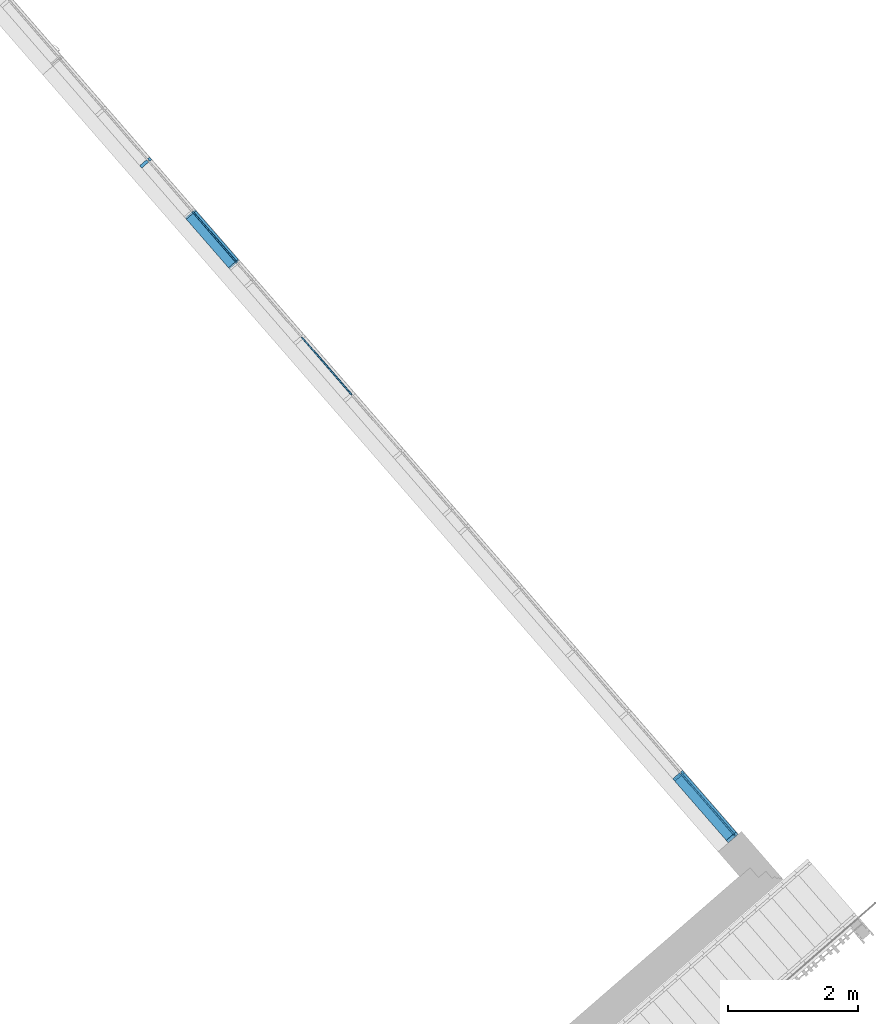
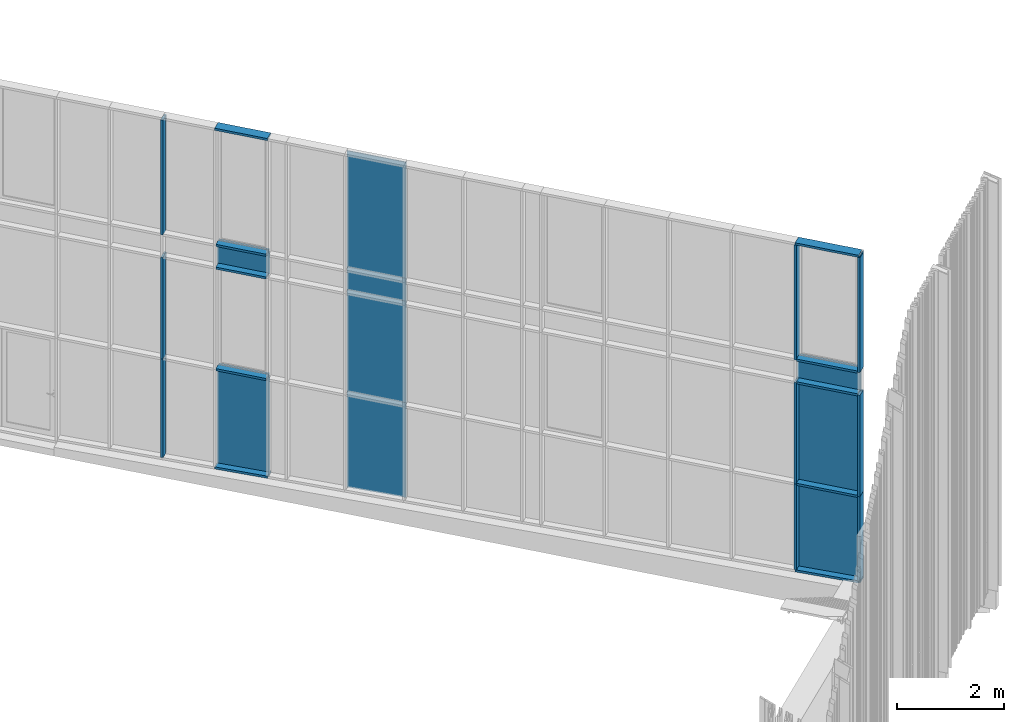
# One storey, part 52 of 390: 31 discrete accessories, 1 element without a shape of its own.
"""IFC2X3 building model written with IfcOpenShell, lengths in millimetres."""

from ifc_helpers import new_model, entity, si_unit, converted_unit, derived_unit, money_unit, direction, frame, origin_with_axes, place, context, subcontext, project, spatial, polyline, outline, extrude, clip, halfspace, material, material_list, type_object, element, aggregate, save


model = new_model("IFC2X3")

# Units and contexts
model_context = context("Model", 3, precision=1e-05, world=origin_with_axes(), true_north=direction((0.0, 1.0)))
body_context = subcontext(model_context, "Body", "Model", "MODEL_VIEW")
ifc_project = project(units=[si_unit("LENGTHUNIT", "METRE", prefix="MILLI"), si_unit("AREAUNIT", "SQUARE_METRE"), si_unit("VOLUMEUNIT", "CUBIC_METRE"), converted_unit("PLANEANGLEUNIT", "DEGREE", entity("IfcPlaneAngleMeasure", 0.0174532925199), si_unit("PLANEANGLEUNIT", "RADIAN"), dimensions=[0, 0, 0, 0, 0, 0, 0]), si_unit("SOLIDANGLEUNIT", "STERADIAN"), money_unit("EUR"), converted_unit("TIMEUNIT", "Year", entity("IfcTimeMeasure", 31556926.0), si_unit("TIMEUNIT", "SECOND"), dimensions=[0, 0, 1, 0, 0, 0, 0]), si_unit("MASSUNIT", "GRAM", prefix="KILO"), si_unit("THERMODYNAMICTEMPERATUREUNIT", "DEGREE_CELSIUS"), si_unit("LUMINOUSINTENSITYUNIT", "LUMEN"), si_unit("ENERGYUNIT", "JOULE", prefix="MEGA"), derived_unit("THERMALCONDUCTANCEUNIT", [(si_unit("POWERUNIT", "WATT"), 1), (si_unit("LENGTHUNIT", "METRE"), -1), (si_unit("THERMODYNAMICTEMPERATUREUNIT", "KELVIN"), -1)]), derived_unit("SPECIFICHEATCAPACITYUNIT", [(si_unit("ENERGYUNIT", "JOULE"), 1), (si_unit("MASSUNIT", "GRAM", prefix="KILO"), -1), (si_unit("THERMODYNAMICTEMPERATUREUNIT", "KELVIN"), -1)]), derived_unit("MASSDENSITYUNIT", [(si_unit("MASSUNIT", "GRAM", prefix="KILO"), 1), (si_unit("VOLUMEUNIT", "CUBIC_METRE"), -1)])], contexts=[model_context])

# Site, building, storey
site_placement = place(None, origin_with_axes())
site = spatial("IfcSite", under=ifc_project, at=site_placement, Name="Site", CompositionType="ELEMENT")
building_placement = place(site_placement, origin_with_axes())
building = spatial("IfcBuilding", under=site, at=building_placement, Name="Building", CompositionType="ELEMENT")
storey_placement = place(building_placement, origin_with_axes())
storey = spatial("IfcBuildingStorey", under=building, at=storey_placement, Name="1 korrus", CompositionType="ELEMENT", Elevation=0.0)

# Curtain wall, discrete accessories
curtain_wall_type = type_object("IfcCurtainWallType", Name="KLF-17", PredefinedType="NOTDEFINED")
curtain_wall_placement = place(storey_placement, frame((175630.823927, 104534.758561, -0.000216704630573), z_axis=(0.0, 0.0, 1.0), x_axis=(1.0, 0.0, 0.0)))
curtain_wall = element("IfcCurtainWall", 1, at=curtain_wall_placement, inside=storey, type_object=curtain_wall_type, Name="Klaasfassaad")
ifc_material_1 = material(Name="Klaas")
discrete_accessory_type_1 = type_object("IfcDiscreteAccessoryType", Name="1170 x 2655 x 20")
discrete_accessory_1_placement = place(curtain_wall_placement, frame((-3401.66606531, 3913.16917346, 6577.50341211), z_axis=(0.0, 0.0, 1.0), x_axis=(-0.65605902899, 0.754709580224, 0.0)))
discrete_accessory_1 = element("IfcDiscreteAccessory", 2, at=discrete_accessory_1_placement, type_object=discrete_accessory_type_1, material=ifc_material_1, Name="KLF-17 klaaspakett", context=body_context, shape_type="SweptSolid", body=[
    extrude(outline(polyline([(-585.000009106, -1317.50318898), (584.999988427, -1317.50318898), (584.999988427, 1337.50319541), (-585.000009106, 1337.50319541), (-585.000009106, -1317.50318898)])), frame((0.0, -10.0000000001, 0.0), z_axis=(0.0, 1.0, 0.0), x_axis=(1.0, 0.0, 0.0)), (0.0, 0.0, 1.0), 20.0000000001),
])
discrete_accessory_type_2 = type_object("IfcDiscreteAccessoryType", Name="1170 x 2196 x 20")
discrete_accessory_2_placement = place(curtain_wall_placement, frame((-3401.66606531, 3913.16917346, 1298.74899472), z_axis=(0.0, 0.0, 1.0), x_axis=(-0.65605902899, 0.754709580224, 0.0)))
discrete_accessory_2 = element("IfcDiscreteAccessory", 3, at=discrete_accessory_2_placement, type_object=discrete_accessory_type_2, material=ifc_material_1, Name="KLF-17 klaaspakett", context=body_context, shape_type="SweptSolid", body=[
    extrude(outline(polyline([(-584.999986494, -1101.25123276), (585.0000061, -1101.25123276), (585.0000061, 1094.89869676), (-584.999986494, 1067.59285161), (-584.999986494, -1101.25123276)])), frame((0.0, -10.0, 0.0), z_axis=(0.0, 1.0, 0.0), x_axis=(1.0, 0.0, 0.0)), (0.0, 0.0, 1.0), 20.0),
])
discrete_accessory_type_3 = type_object("IfcDiscreteAccessoryType", Name="1045 x 2256 x 20")
discrete_accessory_3_placement = place(curtain_wall_placement, frame((-5132.02175427, 5903.7156913, 1267.97166584), z_axis=(0.0, 0.0, 1.0), x_axis=(-0.65605902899, 0.754709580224, 0.0)))
discrete_accessory_3 = element("IfcDiscreteAccessory", 4, at=discrete_accessory_3_placement, type_object=discrete_accessory_type_3, material=ifc_material_1, Name="KLF-17 klaaspakett", context=body_context, shape_type="SweptSolid", body=[
    extrude(outline(polyline([(-522.500006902, -1132.02855086), (522.500008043, -1132.02855086), (522.500008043, 1124.21721744), (-522.500006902, 1099.82898099), (-522.500006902, -1132.02855086)])), frame((0.0, -9.99999999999, 0.0), z_axis=(0.0, 1.0, 0.0), x_axis=(1.0, 0.0, 0.0)), (0.0, 0.0, 1.0), 20.0),
])
discrete_accessory_type_4 = type_object("IfcDiscreteAccessoryType", Name="1260 x 1988 x 20")
discrete_accessory_4_placement = place(curtain_wall_placement, frame((2479.90312958, -2852.80221325, 1403.362726), z_axis=(0.0, 0.0, 1.0), x_axis=(-0.65605902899, 0.754709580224, 0.0)))
discrete_accessory_4 = element("IfcDiscreteAccessory", 5, at=discrete_accessory_4_placement, type_object=discrete_accessory_type_4, material=ifc_material_1, Name="KLF-17 klaaspakett", context=body_context, shape_type="SweptSolid", body=[
    extrude(outline(polyline([(-630.00000011, -996.637500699), (630.0, -996.637500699), (630.0, 991.335217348), (-630.00000011, 961.928863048), (-630.00000011, -996.637500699)])), frame((0.0, -10.0, 0.0), z_axis=(0.0, 1.0, 0.0), x_axis=(1.0, 0.0, 0.0)), (0.0, 0.0, 1.0), 20.0),
])
discrete_accessory_type_5 = type_object("IfcDiscreteAccessoryType", Name="1170 x 2320 x 20")
discrete_accessory_5_placement = place(curtain_wall_placement, frame((-3401.66606531, 3913.16917346, 3560.0002167), z_axis=(0.0, 0.0, 1.0), x_axis=(-0.65605902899, 0.754709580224, 0.0)))
discrete_accessory_5 = element("IfcDiscreteAccessory", 6, at=discrete_accessory_5_placement, type_object=discrete_accessory_type_5, material=ifc_material_1, Name="KLF-17 klaaspakett", context=body_context, shape_type="SweptSolid", body=[
    extrude(outline(polyline([(-584.999996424, -1160.0), (585.000001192, -1160.0), (585.000001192, 1160.0), (-584.999996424, 1160.0), (-584.999996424, -1160.0)])), frame((0.0, -10.0, 0.0), z_axis=(0.0, 1.0, 0.0), x_axis=(1.0, 0.0, 0.0)), (0.0, 0.0, 1.0), 20.0),
])
discrete_accessory_type_6 = type_object("IfcDiscreteAccessoryType", Name="1260 x 2320 x 20")
discrete_accessory_6_placement = place(curtain_wall_placement, frame((2479.90312958, -2852.80221325, 3560.0002167), z_axis=(0.0, 0.0, 1.0), x_axis=(-0.65605902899, 0.754709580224, 0.0)))
discrete_accessory_6 = element("IfcDiscreteAccessory", 7, at=discrete_accessory_6_placement, type_object=discrete_accessory_type_6, material=ifc_material_1, Name="KLF-17 klaaspakett", context=body_context, shape_type="SweptSolid", body=[
    extrude(outline(polyline([(-630.000009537, -1160.0), (630.000001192, -1160.0), (630.000001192, 1160.0), (-630.000009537, 1160.0), (-630.000009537, -1160.0)])), frame((0.0, -10.0, 0.0), z_axis=(0.0, 1.0, 0.0), x_axis=(1.0, 0.0, 0.0)), (0.0, 0.0, 1.0), 20.0),
])
discrete_accessory_type_7 = type_object("IfcDiscreteAccessoryType", Name="1260 x 520 x 20")
discrete_accessory_7_placement = place(curtain_wall_placement, frame((2479.90312958, -2852.80221325, 4980.0002167), z_axis=(0.0, 0.0, 1.0), x_axis=(-0.65605902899, 0.754709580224, 0.0)))
discrete_accessory_7 = element("IfcDiscreteAccessory", 8, at=discrete_accessory_7_placement, type_object=discrete_accessory_type_7, material=ifc_material_1, Name="KLF-17 klaaspakett", context=body_context, shape_type="SweptSolid", body=[
    extrude(outline(polyline([(-630.000003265, -259.99999823), (630.000003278, -259.99999823), (630.000003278, 260.0), (-630.000003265, 260.0), (-630.000003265, -259.99999823)])), frame((0.0, -9.99999999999, 0.0), z_axis=(0.0, 1.0, 0.0), x_axis=(1.0, 0.0, 0.0)), (0.0, 0.0, 1.0), 20.0),
])
discrete_accessory_type_8 = type_object("IfcDiscreteAccessoryType", Name="1170 x 520 x 20")
discrete_accessory_8_placement = place(curtain_wall_placement, frame((-3401.66606531, 3913.16917346, 4980.0002167), z_axis=(0.0, 0.0, 1.0), x_axis=(-0.65605902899, 0.754709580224, 0.0)))
discrete_accessory_8 = element("IfcDiscreteAccessory", 9, at=discrete_accessory_8_placement, type_object=discrete_accessory_type_8, material=ifc_material_1, Name="KLF-17 klaaspakett", context=body_context, shape_type="SweptSolid", body=[
    extrude(outline(polyline([(-585.000006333, -259.999991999), (585.000006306, -260.000009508), (585.000006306, 260.0), (-585.000006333, 260.0), (-585.000006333, -259.999991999)])), frame((0.0, -10.0, 0.0), z_axis=(0.0, 1.0, 0.0), x_axis=(1.0, 0.0, 0.0)), (0.0, 0.0, 1.0), 20.0),
])
discrete_accessory_type_9 = type_object("IfcDiscreteAccessoryType", Name="1045 x 520 x 20")
discrete_accessory_9_placement = place(curtain_wall_placement, frame((-5132.02175427, 5903.7156913, 4980.0002167), z_axis=(0.0, 0.0, 1.0), x_axis=(-0.65605902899, 0.754709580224, 0.0)))
discrete_accessory_9 = element("IfcDiscreteAccessory", 10, at=discrete_accessory_9_placement, type_object=discrete_accessory_type_9, material=ifc_material_1, Name="KLF-17 klaaspakett", context=body_context, shape_type="SweptSolid", body=[
    extrude(outline(polyline([(-522.5, -259.99999553), (522.49999553, -259.99999553), (522.49999553, 260.0), (-522.5, 260.0), (-522.5, -259.99999553)])), frame((0.0, -9.99999999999, 0.0), z_axis=(0.0, 1.0, 0.0), x_axis=(1.0, 0.0, 0.0)), (0.0, 0.0, 1.0), 20.0),
])
discrete_accessory_type_10 = type_object("IfcDiscreteAccessoryType", Name="50 x 200")
discrete_accessory_10_placement = place(curtain_wall_placement, frame((2909.60540343, -3347.1181336, 2400.0002167), z_axis=(0.0, 0.0, 1.0), x_axis=(-0.65605902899, 0.754709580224, 0.0)))
discrete_accessory_10 = element("IfcDiscreteAccessory", 11, at=discrete_accessory_10_placement, type_object=discrete_accessory_type_10, Name="KLF-17 profiil", context=body_context, shape_type="SweptSolid", body=[
    extrude(outline(polyline([(-23.948571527, 12.3071492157), (-7.54709580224, -6.56059028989), (7.54709580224, 6.56059028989), (-8.8543799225, 25.4283297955), (-23.948571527, 12.3071492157)])), frame((0.0, 0.0, 0.0), z_axis=(0.0, 0.0, 1.0), x_axis=(-0.65605902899, -0.754709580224, 0.0)), (0.0, 0.0, 1.0), 2320.0),
    extrude(outline(polyline([(-146.009388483, -60.6733753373), (-113.206437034, -98.4088543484), (-7.54709580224, -6.56059028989), (-40.3500472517, 31.1748887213), (-146.009388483, -60.6733753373)])), frame((0.0, 0.0, 0.0), z_axis=(0.0, 0.0, 1.0), x_axis=(-0.65605902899, -0.754709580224, 0.0)), (0.0, 0.0, 1.0), 2320.0),
    extrude(outline(polyline([(37.7354790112, 32.8029514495), (4.93252756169, 70.5384304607), (-25.2558556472, 44.2960693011), (7.54709580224, 6.56059028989), (37.7354790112, 32.8029514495)])), frame((0.0, 0.0, 0.0), z_axis=(0.0, 0.0, 1.0), x_axis=(-0.65605902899, -0.754709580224, 0.0)), (0.0, 0.0, 1.0), 2320.0),
])
ifc_material_2 = material(Name="Aluminium MUST")
ifc_material_list = material_list([ifc_material_2, ifc_material_2])
discrete_accessory_11_placement = place(curtain_wall_placement, frame((2066.58594132, -2377.3351777, 5240.0002167), z_axis=(0.65605902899, -0.754709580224, 0.0), x_axis=(0.0, 0.0, 1.0)))
discrete_accessory_11 = element("IfcDiscreteAccessory", 12, at=discrete_accessory_11_placement, type_object=discrete_accessory_type_10, material=ifc_material_list, Name="KLF-17 profiil", context=body_context, shape_type="SweptSolid", body=[
    extrude(outline(polyline([(150.0, -25.0), (150.0, 25.0), (9.99999999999, 25.0), (9.99999999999, -25.0), (150.0, -25.0)])), frame((0.0, 0.0, 25.0), z_axis=(0.0, 0.0, 1.0), x_axis=(0.0, 1.0, 0.0)), (0.0, 0.0, 1.0), 1210.0),
    extrude(outline(polyline([(-50.0, 25.0), (-50.0, -25.0), (-9.99999999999, -25.0), (-9.99999999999, 25.0), (-50.0, 25.0)])), frame((0.0, 0.0, 25.0), z_axis=(0.0, 0.0, 1.0), x_axis=(0.0, 1.0, 0.0)), (0.0, 0.0, 1.0), 1210.0),
])
discrete_accessory_12_placement = place(curtain_wall_placement, frame((-6160.39428221, 7086.7229583, 5240.0002167), z_axis=(0.0, 0.0, 1.0), x_axis=(-0.65605902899, 0.754709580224, 0.0)))
discrete_accessory_12 = element("IfcDiscreteAccessory", 13, at=discrete_accessory_12_placement, type_object=discrete_accessory_type_10, material=ifc_material_list, Name="KLF-17 profiil", context=body_context, shape_type="SweptSolid", body=[
    extrude(outline(polyline([(-129.607912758, -79.5411148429), (-96.8049613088, -117.276593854), (8.85437992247, -25.4283297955), (-23.948571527, 12.3071492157), (-129.607912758, -79.5411148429)])), frame((0.0, 0.0, 0.0), z_axis=(0.0, 0.0, 1.0), x_axis=(-0.65605902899, -0.754709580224, 0.0)), (0.0, 0.0, 1.0), 2625.00639082),
    extrude(outline(polyline([(54.1369547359, 13.9352119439), (21.3340032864, 51.670690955), (-8.8543799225, 25.4283297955), (23.948571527, -12.3071492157), (54.1369547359, 13.9352119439)])), frame((0.0, 0.0, 0.0), z_axis=(0.0, 0.0, 1.0), x_axis=(-0.65605902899, -0.754709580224, 0.0)), (0.0, 0.0, 1.0), 2625.00639082),
])
discrete_accessory_13_placement = place(curtain_wall_placement, frame((-5474.81259692, 6298.05144697, 7915.00660752), z_axis=(0.65605902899, -0.754709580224, 0.0), x_axis=(0.0, 0.0, 1.0)))
discrete_accessory_13 = element("IfcDiscreteAccessory", 14, at=discrete_accessory_13_placement, type_object=discrete_accessory_type_10, Name="KLF-17 profiil", context=body_context, shape_type="SweptSolid", body=[
    extrude(outline(polyline([(10.0, 25.0), (-9.99999999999, 25.0), (-9.99999999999, 0.0), (10.0, 0.0), (10.0, 25.0)])), frame((0.0, 0.0, 0.0), z_axis=(0.0, 0.0, 1.0), x_axis=(0.0, 1.0, 0.0)), (0.0, 0.0, 1.0), 1045.0),
    extrude(outline(polyline([(150.0, 50.0), (10.0, 50.0), (10.0, 0.0), (150.0, 0.0), (150.0, 50.0)])), frame((0.0, 0.0, 0.0), z_axis=(0.0, 0.0, 1.0), x_axis=(0.0, 1.0, 0.0)), (0.0, 0.0, 1.0), 1045.0),
    extrude(outline(polyline([(-50.0, 0.0), (-9.99999999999, 0.0), (-9.99999999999, 50.0), (-50.0, 50.0), (-50.0, 0.0)])), frame((0.0, 0.0, 0.0), z_axis=(0.0, 0.0, 1.0), x_axis=(0.0, 1.0, 0.0)), (0.0, 0.0, 1.0), 1045.0),
])
discrete_accessory_14_placement = place(curtain_wall_placement, frame((-5474.81259692, 6298.05144697, 5240.0002167), z_axis=(0.65605902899, -0.754709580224, 0.0), x_axis=(0.0, 0.0, 1.0)))
discrete_accessory_14 = element("IfcDiscreteAccessory", 15, at=discrete_accessory_14_placement, type_object=discrete_accessory_type_10, material=ifc_material_list, Name="KLF-17 profiil", context=body_context, shape_type="SweptSolid", body=[
    extrude(outline(polyline([(150.0, -25.0), (150.0, 25.0), (9.99999999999, 25.0), (9.99999999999, -25.0), (150.0, -25.0)])), frame((0.0, 0.0, 25.0), z_axis=(0.0, 0.0, 1.0), x_axis=(0.0, 1.0, 0.0)), (0.0, 0.0, 1.0), 995.0),
    extrude(outline(polyline([(-50.0, 25.0), (-50.0, -25.0), (-9.99999999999, -25.0), (-9.99999999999, 25.0), (-50.0, 25.0)])), frame((0.0, 0.0, 25.0), z_axis=(0.0, 0.0, 1.0), x_axis=(0.0, 1.0, 0.0)), (0.0, 0.0, 1.0), 995.0),
])
discrete_accessory_15_placement = place(curtain_wall_placement, frame((-6160.39428221, 7086.7229583, 99.3604815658), z_axis=(0.0, 0.0, 1.0), x_axis=(-0.65605902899, 0.754709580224, 0.0)))
discrete_accessory_15 = element("IfcDiscreteAccessory", 16, at=discrete_accessory_15_placement, type_object=discrete_accessory_type_10, material=ifc_material_list, Name="KLF-17 profiil", context=body_context, shape_type="Clipping", body=[
    clip(extrude(outline(polyline([(-129.607912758, -79.5411148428), (-96.8049613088, -117.276593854), (8.8543799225, -25.4283297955), (-23.948571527, 12.3071492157), (-129.607912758, -79.5411148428)])), frame((0.0, 0.0, 49.4301579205), z_axis=(0.0, 0.0, 1.0), x_axis=(-0.65605902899, -0.754709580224, 0.0)), (0.0, 0.0, 1.0), 2251.20957722), halfspace(frame((1.16659656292, 0.0, 49.9863886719), z_axis=(0.0233319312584, 0.0, 0.999727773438), x_axis=(0.0, -1.0, 0.0)), True)),
    clip(extrude(outline(polyline([(54.1369547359, 13.9352119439), (21.3340032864, 51.6706909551), (-8.8543799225, 25.4283297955), (23.948571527, -12.3071492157), (54.1369547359, 13.9352119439)])), frame((0.0, 0.0, 49.4301579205), z_axis=(0.0, 0.0, 1.0), x_axis=(-0.65605902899, -0.754709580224, 0.0)), (0.0, 0.0, 1.0), 2251.20957722), halfspace(frame((1.16659656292, 0.0, 49.9863886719), z_axis=(0.0233319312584, 0.0, 0.999727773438), x_axis=(0.0, -1.0, 0.0)), True)),
])
discrete_accessory_16_placement = place(curtain_wall_placement, frame((2066.58594132, -2377.3351777, 392.022059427), z_axis=(0.655880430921, -0.754504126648, 0.0233320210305), x_axis=(-0.0153071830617, 0.0176088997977, 0.999727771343)))
discrete_accessory_16 = element("IfcDiscreteAccessory", 17, at=discrete_accessory_16_placement, type_object=discrete_accessory_type_10, Name="KLF-17 profiil", context=body_context, shape_type="SweptSolid", body=[
    extrude(outline(polyline([(10.0, -25.0), (9.99999999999, 0.0), (-9.99999999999, 0.0), (-9.99999999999, -25.0), (10.0, -25.0)])), frame((0.0, 0.0, -5.19968068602e-06), z_axis=(0.0, 0.0, 1.0), x_axis=(0.0, 1.0, 0.0)), (0.0, 0.0, 1.0), 1260.34315038),
    extrude(outline(polyline([(150.0, -50.0), (150.0, 0.0), (9.99999999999, 0.0), (9.99999999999, -50.0), (150.0, -50.0)])), frame((0.0, 0.0, -5.19968068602e-06), z_axis=(0.0, 0.0, 1.0), x_axis=(0.0, 1.0, 0.0)), (0.0, 0.0, 1.0), 1260.34315038),
    extrude(outline(polyline([(-50.0, 0.0), (-50.0, -50.0), (-9.99999999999, -50.0), (-9.99999999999, 0.0), (-50.0, 0.0)])), frame((0.0, 0.0, -5.19968068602e-06), z_axis=(0.0, 0.0, 1.0), x_axis=(0.0, 1.0, 0.0)), (0.0, 0.0, 1.0), 1260.34315038),
])
discrete_accessory_17_placement = place(curtain_wall_placement, frame((-5474.81259692, 6298.05144697, 123.74898893), z_axis=(0.655880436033, -0.754504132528, 0.023331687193), x_axis=(-0.0153069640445, 0.0176086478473, 0.999727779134)))
discrete_accessory_17 = element("IfcDiscreteAccessory", 18, at=discrete_accessory_17_placement, type_object=discrete_accessory_type_10, Name="KLF-17 profiil", context=body_context, shape_type="SweptSolid", body=[
    extrude(outline(polyline([(9.99999999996, -25.0), (9.99999999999, 0.0), (-10.0, 0.0), (-9.99999999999, -25.0), (9.99999999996, -25.0)])), frame((0.0, 0.0, -6.10333117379e-06), z_axis=(0.0, 0.0, 1.0), x_axis=(0.0, 1.0, 0.0)), (0.0, 0.0, 1.0), 1045.28457202),
    extrude(outline(polyline([(150.0, -50.0), (150.0, 0.0), (9.99999999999, 0.0), (9.99999999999, -50.0), (150.0, -50.0)])), frame((0.0, 0.0, -6.10333117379e-06), z_axis=(0.0, 0.0, 1.0), x_axis=(0.0, 1.0, 0.0)), (0.0, 0.0, 1.0), 1045.28457202),
    extrude(outline(polyline([(-50.0, 0.0), (-50.0, -50.0), (-9.99999999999, -50.0), (-10.0, 0.0), (-50.0, 0.0)])), frame((0.0, 0.0, -6.10333117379e-06), z_axis=(0.0, 0.0, 1.0), x_axis=(0.0, 1.0, 0.0)), (0.0, 0.0, 1.0), 1045.28457202),
])
discrete_accessory_18_placement = place(curtain_wall_placement, frame((2909.60540343, -3347.1181336, 422.011243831), z_axis=(0.0, 0.0, 1.0), x_axis=(-0.65605902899, 0.754709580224, 0.0)))
discrete_accessory_18 = element("IfcDiscreteAccessory", 19, at=discrete_accessory_18_placement, type_object=discrete_accessory_type_10, Name="KLF-17 profiil", context=body_context, shape_type="Clipping", body=[
    clip(extrude(outline(polyline([(-23.948571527, 12.3071492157), (-7.54709580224, -6.56059028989), (7.54709580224, 6.56059028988), (-8.85437992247, 25.4283297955), (-23.948571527, 12.3071492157)])), frame((0.0, 0.0, 0.0), z_axis=(0.0, 0.0, 1.0), x_axis=(-0.65605902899, -0.754709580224, 0.0)), (0.0, 0.0, 1.0), 1977.98897287), halfspace(frame((0.0, 0.0, 0.0), z_axis=(-0.698809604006, 0.0, 0.715307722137), x_axis=(0.0, -1.0, 0.0)), True)),
    clip(extrude(outline(polyline([(-146.009388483, -60.6733753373), (-113.206437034, -98.4088543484), (-7.54709580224, -6.56059028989), (-40.3500472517, 31.1748887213), (-146.009388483, -60.6733753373)])), frame((0.0, 0.0, 0.0), z_axis=(0.0, 0.0, 1.0), x_axis=(-0.65605902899, -0.754709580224, 0.0)), (0.0, 0.0, 1.0), 1977.98897287), halfspace(frame((0.0, 0.0, 0.0), z_axis=(-0.698809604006, 0.0, 0.715307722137), x_axis=(0.0, -1.0, 0.0)), True)),
    clip(extrude(outline(polyline([(37.7354790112, 32.8029514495), (4.93252756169, 70.5384304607), (-25.2558556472, 44.2960693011), (7.54709580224, 6.56059028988), (37.7354790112, 32.8029514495)])), frame((0.0, 0.0, 0.0), z_axis=(0.0, 0.0, 1.0), x_axis=(-0.65605902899, -0.754709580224, 0.0)), (0.0, 0.0, 1.0), 1977.98897287), halfspace(frame((0.0, 0.0, 0.0), z_axis=(-0.698809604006, 0.0, 0.715307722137), x_axis=(0.0, -1.0, 0.0)), True)),
])
discrete_accessory_19_placement = place(curtain_wall_placement, frame((-5474.81259692, 6298.05144697, 2400.0002167), z_axis=(0.65605902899, -0.754709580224, 0.0), x_axis=(0.0, 0.0, 1.0)))
discrete_accessory_19 = element("IfcDiscreteAccessory", 20, at=discrete_accessory_19_placement, type_object=discrete_accessory_type_10, material=ifc_material_list, Name="KLF-17 profiil", context=body_context, shape_type="SweptSolid", body=[
    extrude(outline(polyline([(150.0, -25.0), (150.0, 25.0), (9.99999999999, 25.0), (9.99999999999, -25.0), (150.0, -25.0)])), frame((0.0, 0.0, 25.0), z_axis=(0.0, 0.0, 1.0), x_axis=(0.0, 1.0, 0.0)), (0.0, 0.0, 1.0), 995.0),
    extrude(outline(polyline([(-50.0, 25.0), (-50.0, -25.0), (-9.99999999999, -25.0), (-9.99999999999, 25.0), (-50.0, 25.0)])), frame((0.0, 0.0, 25.0), z_axis=(0.0, 0.0, 1.0), x_axis=(0.0, 1.0, 0.0)), (0.0, 0.0, 1.0), 995.0),
])
discrete_accessory_20_placement = place(curtain_wall_placement, frame((-5474.81259692, 6298.05144697, 4720.0002167), z_axis=(0.65605902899, -0.754709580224, 0.0), x_axis=(0.0, 0.0, 1.0)))
discrete_accessory_20 = element("IfcDiscreteAccessory", 21, at=discrete_accessory_20_placement, type_object=discrete_accessory_type_10, material=ifc_material_list, Name="KLF-17 profiil", context=body_context, shape_type="SweptSolid", body=[
    extrude(outline(polyline([(150.0, -25.0), (150.0, 25.0), (9.99999999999, 25.0), (9.99999999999, -25.0), (150.0, -25.0)])), frame((0.0, 0.0, 25.0), z_axis=(0.0, 0.0, 1.0), x_axis=(0.0, 1.0, 0.0)), (0.0, 0.0, 1.0), 995.0),
    extrude(outline(polyline([(-50.0, 25.0), (-50.0, -25.0), (-9.99999999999, -25.0), (-9.99999999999, 25.0), (-50.0, 25.0)])), frame((0.0, 0.0, 25.0), z_axis=(0.0, 0.0, 1.0), x_axis=(0.0, 1.0, 0.0)), (0.0, 0.0, 1.0), 995.0),
])
discrete_accessory_21_placement = place(curtain_wall_placement, frame((-6160.39428221, 7086.7229583, 2400.0002167), z_axis=(0.0, 0.0, 1.0), x_axis=(-0.65605902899, 0.754709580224, 0.0)))
discrete_accessory_21 = element("IfcDiscreteAccessory", 22, at=discrete_accessory_21_placement, type_object=discrete_accessory_type_10, material=ifc_material_list, Name="KLF-17 profiil", context=body_context, shape_type="SweptSolid", body=[
    extrude(outline(polyline([(-129.607912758, -79.5411148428), (-96.8049613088, -117.276593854), (8.85437992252, -25.4283297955), (-23.948571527, 12.3071492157), (-129.607912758, -79.5411148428)])), frame((0.0, 0.0, 0.0), z_axis=(0.0, 0.0, 1.0), x_axis=(-0.65605902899, -0.754709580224, 0.0)), (0.0, 0.0, 1.0), 2320.0),
    extrude(outline(polyline([(54.136954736, 13.9352119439), (21.3340032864, 51.6706909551), (-8.8543799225, 25.4283297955), (23.948571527, -12.3071492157), (54.136954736, 13.9352119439)])), frame((0.0, 0.0, 0.0), z_axis=(0.0, 0.0, 1.0), x_axis=(-0.65605902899, -0.754709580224, 0.0)), (0.0, 0.0, 1.0), 2320.0),
])
discrete_accessory_22_placement = place(curtain_wall_placement, frame((2066.58594132, -2377.3351777, 2400.0002167), z_axis=(0.65605902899, -0.754709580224, 0.0), x_axis=(0.0, 0.0, 1.0)))
discrete_accessory_22 = element("IfcDiscreteAccessory", 23, at=discrete_accessory_22_placement, type_object=discrete_accessory_type_10, material=ifc_material_list, Name="KLF-17 profiil", context=body_context, shape_type="SweptSolid", body=[
    extrude(outline(polyline([(150.0, -25.0), (150.0, 25.0), (9.99999999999, 25.0), (9.99999999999, -25.0), (150.0, -25.0)])), frame((0.0, 0.0, 25.0), z_axis=(0.0, 0.0, 1.0), x_axis=(0.0, 1.0, 0.0)), (0.0, 0.0, 1.0), 1210.0),
    extrude(outline(polyline([(-50.0, 25.0), (-50.0, -25.0), (-9.99999999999, -25.0), (-9.99999999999, 25.0), (-50.0, 25.0)])), frame((0.0, 0.0, 25.0), z_axis=(0.0, 0.0, 1.0), x_axis=(0.0, 1.0, 0.0)), (0.0, 0.0, 1.0), 1210.0),
])
discrete_accessory_23_placement = place(curtain_wall_placement, frame((2066.58594132, -2377.3351777, 392.022059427), z_axis=(0.0, 0.0, 1.0), x_axis=(-0.65605902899, 0.754709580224, 0.0)))
discrete_accessory_23 = element("IfcDiscreteAccessory", 24, at=discrete_accessory_23_placement, type_object=discrete_accessory_type_10, material=ifc_material_list, Name="KLF-17 profiil", context=body_context, shape_type="Clipping", body=[
    clip(extrude(outline(polyline([(-129.607912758, -79.5411148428), (-96.8049613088, -117.276593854), (8.8543799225, -25.4283297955), (-23.948571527, 12.3071492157), (-129.607912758, -79.5411148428)])), frame((0.0, 0.0, 49.4301607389), z_axis=(0.0, 0.0, 1.0), x_axis=(-0.65605902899, -0.754709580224, 0.0)), (0.0, 0.0, 1.0), 1958.54799654), halfspace(frame((1.16659065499, 0.0, 49.9863888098), z_axis=(0.0233318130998, 0.0, 0.999727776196), x_axis=(0.0, -1.0, 0.0)), True)),
    clip(extrude(outline(polyline([(54.1369547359, 13.9352119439), (21.3340032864, 51.6706909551), (-8.8543799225, 25.4283297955), (23.948571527, -12.3071492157), (54.1369547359, 13.9352119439)])), frame((0.0, 0.0, 49.4301607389), z_axis=(0.0, 0.0, 1.0), x_axis=(-0.65605902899, -0.754709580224, 0.0)), (0.0, 0.0, 1.0), 1958.54799654), halfspace(frame((1.16659065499, 0.0, 49.9863888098), z_axis=(0.0233318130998, 0.0, 0.999727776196), x_axis=(0.0, -1.0, 0.0)), True)),
])
discrete_accessory_24_placement = place(curtain_wall_placement, frame((2066.58594132, -2377.3351777, 2400.0002167), z_axis=(0.0, 0.0, 1.0), x_axis=(-0.65605902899, 0.754709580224, 0.0)))
discrete_accessory_24 = element("IfcDiscreteAccessory", 25, at=discrete_accessory_24_placement, type_object=discrete_accessory_type_10, material=ifc_material_list, Name="KLF-17 profiil", context=body_context, shape_type="SweptSolid", body=[
    extrude(outline(polyline([(-129.607912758, -79.5411148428), (-96.8049613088, -117.276593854), (8.8543799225, -25.4283297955), (-23.948571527, 12.3071492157), (-129.607912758, -79.5411148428)])), frame((0.0, 0.0, 0.0), z_axis=(0.0, 0.0, 1.0), x_axis=(-0.65605902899, -0.754709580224, 0.0)), (0.0, 0.0, 1.0), 2320.0),
    extrude(outline(polyline([(54.1369547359, 13.9352119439), (21.3340032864, 51.6706909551), (-8.8543799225, 25.4283297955), (23.948571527, -12.3071492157), (54.1369547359, 13.9352119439)])), frame((0.0, 0.0, 0.0), z_axis=(0.0, 0.0, 1.0), x_axis=(-0.65605902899, -0.754709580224, 0.0)), (0.0, 0.0, 1.0), 2320.0),
])
discrete_accessory_25_placement = place(curtain_wall_placement, frame((2066.58594132, -2377.3351777, 5240.0002167), z_axis=(0.0, 0.0, 1.0), x_axis=(-0.65605902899, 0.754709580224, 0.0)))
discrete_accessory_25 = element("IfcDiscreteAccessory", 26, at=discrete_accessory_25_placement, type_object=discrete_accessory_type_10, material=ifc_material_list, Name="KLF-17 profiil", context=body_context, shape_type="SweptSolid", body=[
    extrude(outline(polyline([(-129.607912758, -79.5411148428), (-96.8049613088, -117.276593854), (8.8543799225, -25.4283297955), (-23.948571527, 12.3071492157), (-129.607912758, -79.5411148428)])), frame((0.0, 0.0, 0.0), z_axis=(0.0, 0.0, 1.0), x_axis=(-0.65605902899, -0.754709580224, 0.0)), (0.0, 0.0, 1.0), 2625.00639082),
    extrude(outline(polyline([(54.1369547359, 13.9352119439), (21.3340032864, 51.6706909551), (-8.8543799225, 25.4283297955), (23.948571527, -12.3071492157), (54.1369547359, 13.9352119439)])), frame((0.0, 0.0, 0.0), z_axis=(0.0, 0.0, 1.0), x_axis=(-0.65605902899, -0.754709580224, 0.0)), (0.0, 0.0, 1.0), 2625.00639082),
])
discrete_accessory_26_placement = place(curtain_wall_placement, frame((2066.58594132, -2377.3351777, 7915.00660752), z_axis=(0.65605902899, -0.754709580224, 0.0), x_axis=(0.0, 0.0, 1.0)))
discrete_accessory_26 = element("IfcDiscreteAccessory", 27, at=discrete_accessory_26_placement, type_object=discrete_accessory_type_10, Name="KLF-17 profiil", context=body_context, shape_type="SweptSolid", body=[
    extrude(outline(polyline([(9.99999999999, 25.0), (-9.99999999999, 25.0), (-9.99999999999, 0.0), (9.99999999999, 0.0), (9.99999999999, 25.0)])), frame((0.0, 0.0, 0.0), z_axis=(0.0, 0.0, 1.0), x_axis=(0.0, 1.0, 0.0)), (0.0, 0.0, 1.0), 1260.0),
    extrude(outline(polyline([(150.0, 50.0), (9.99999999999, 50.0), (9.99999999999, 0.0), (150.0, 0.0), (150.0, 50.0)])), frame((0.0, 0.0, 0.0), z_axis=(0.0, 0.0, 1.0), x_axis=(0.0, 1.0, 0.0)), (0.0, 0.0, 1.0), 1260.0),
    extrude(outline(polyline([(-50.0, 0.0), (-9.99999999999, 0.0), (-9.99999999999, 50.0), (-50.0, 50.0), (-50.0, 0.0)])), frame((0.0, 0.0, 0.0), z_axis=(0.0, 0.0, 1.0), x_axis=(0.0, 1.0, 0.0)), (0.0, 0.0, 1.0), 1260.0),
])
discrete_accessory_27_placement = place(curtain_wall_placement, frame((2066.58594132, -2377.3351777, 4720.0002167), z_axis=(0.65605902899, -0.754709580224, 0.0), x_axis=(0.0, 0.0, 1.0)))
discrete_accessory_27 = element("IfcDiscreteAccessory", 28, at=discrete_accessory_27_placement, type_object=discrete_accessory_type_10, material=ifc_material_list, Name="KLF-17 profiil", context=body_context, shape_type="SweptSolid", body=[
    extrude(outline(polyline([(150.0, -25.0), (150.0, 25.0), (9.99999999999, 25.0), (9.99999999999, -25.0), (150.0, -25.0)])), frame((0.0, 0.0, 25.0), z_axis=(0.0, 0.0, 1.0), x_axis=(0.0, 1.0, 0.0)), (0.0, 0.0, 1.0), 1210.0),
    extrude(outline(polyline([(-50.0, 25.0), (-50.0, -25.0), (-9.99999999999, -25.0), (-9.99999999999, 25.0), (-50.0, 25.0)])), frame((0.0, 0.0, 25.0), z_axis=(0.0, 0.0, 1.0), x_axis=(0.0, 1.0, 0.0)), (0.0, 0.0, 1.0), 1210.0),
])
discrete_accessory_28_placement = place(curtain_wall_placement, frame((2893.22031784, -3328.26924879, 421.428411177), z_axis=(0.0, 0.0, 1.0), x_axis=(-0.65605902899, 0.754709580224, 0.0)))
discrete_accessory_28 = element("IfcDiscreteAccessory", 29, at=discrete_accessory_28_placement, type_object=discrete_accessory_type_10, material=ifc_material_list, Name="KLF-17 profiil", context=body_context, shape_type="Clipping", body=[
    clip(extrude(outline(polyline([(-129.607912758, -79.5411148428), (-96.8049613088, -117.276593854), (8.8543799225, -25.4283297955), (-23.948571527, 12.3071492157), (-129.607912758, -79.5411148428)])), frame((0.0, 0.0, 49.4301557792), z_axis=(0.0, 0.0, 1.0), x_axis=(-0.65605902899, -0.754709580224, 0.0)), (0.0, 0.0, 1.0), 1929.14164975), halfspace(frame((1.16660105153, 0.0, 49.9863885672), z_axis=(0.0233320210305, 0.0, 0.999727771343), x_axis=(0.0, -1.0, 0.0)), True)),
    clip(extrude(outline(polyline([(54.1369547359, 13.9352119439), (21.3340032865, 51.6706909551), (-8.85437992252, 25.4283297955), (23.948571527, -12.3071492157), (54.1369547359, 13.9352119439)])), frame((0.0, 0.0, 49.4301557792), z_axis=(0.0, 0.0, 1.0), x_axis=(-0.65605902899, -0.754709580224, 0.0)), (0.0, 0.0, 1.0), 1929.14164975), halfspace(frame((1.16660105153, 0.0, 49.9863885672), z_axis=(0.0233320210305, 0.0, 0.999727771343), x_axis=(0.0, -1.0, 0.0)), True)),
])
discrete_accessory_29_placement = place(curtain_wall_placement, frame((2893.22031784, -3328.26924879, 2400.0002167), z_axis=(0.0, 0.0, 1.0), x_axis=(-0.65605902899, 0.754709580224, 0.0)))
discrete_accessory_29 = element("IfcDiscreteAccessory", 30, at=discrete_accessory_29_placement, type_object=discrete_accessory_type_10, material=ifc_material_list, Name="KLF-17 profiil", context=body_context, shape_type="SweptSolid", body=[
    extrude(outline(polyline([(-129.607912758, -79.5411148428), (-96.8049613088, -117.276593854), (8.8543799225, -25.4283297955), (-23.948571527, 12.3071492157), (-129.607912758, -79.5411148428)])), frame((0.0, 0.0, 0.0), z_axis=(0.0, 0.0, 1.0), x_axis=(-0.65605902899, -0.754709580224, 0.0)), (0.0, 0.0, 1.0), 2320.0),
    extrude(outline(polyline([(54.1369547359, 13.9352119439), (21.3340032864, 51.670690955), (-8.85437992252, 25.4283297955), (23.948571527, -12.3071492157), (54.1369547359, 13.9352119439)])), frame((0.0, 0.0, 0.0), z_axis=(0.0, 0.0, 1.0), x_axis=(-0.65605902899, -0.754709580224, 0.0)), (0.0, 0.0, 1.0), 2320.0),
])
discrete_accessory_30_placement = place(curtain_wall_placement, frame((2893.22031784, -3328.26924879, 5240.0002167), z_axis=(0.0, 0.0, 1.0), x_axis=(-0.65605902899, 0.754709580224, 0.0)))
discrete_accessory_30 = element("IfcDiscreteAccessory", 31, at=discrete_accessory_30_placement, type_object=discrete_accessory_type_10, material=ifc_material_list, Name="KLF-17 profiil", context=body_context, shape_type="SweptSolid", body=[
    extrude(outline(polyline([(-129.607912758, -79.5411148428), (-96.8049613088, -117.276593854), (8.8543799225, -25.4283297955), (-23.948571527, 12.3071492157), (-129.607912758, -79.5411148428)])), frame((0.0, 0.0, 0.0), z_axis=(0.0, 0.0, 1.0), x_axis=(-0.65605902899, -0.754709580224, 0.0)), (0.0, 0.0, 1.0), 2625.00639082),
    extrude(outline(polyline([(54.1369547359, 13.9352119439), (21.3340032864, 51.670690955), (-8.85437992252, 25.4283297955), (23.948571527, -12.3071492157), (54.1369547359, 13.9352119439)])), frame((0.0, 0.0, 0.0), z_axis=(0.0, 0.0, 1.0), x_axis=(-0.65605902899, -0.754709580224, 0.0)), (0.0, 0.0, 1.0), 2625.00639082),
])
discrete_accessory_31_placement = place(curtain_wall_placement, frame((2909.60540343, -3347.1181336, 5240.0002167), z_axis=(0.0, 0.0, 1.0), x_axis=(-0.65605902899, 0.754709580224, 0.0)))
discrete_accessory_31 = element("IfcDiscreteAccessory", 32, at=discrete_accessory_31_placement, type_object=discrete_accessory_type_10, Name="KLF-17 profiil", context=body_context, shape_type="Clipping", body=[
    clip(extrude(outline(polyline([(-23.948571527, 12.3071492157), (-7.54709580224, -6.56059028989), (7.54709580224, 6.56059028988), (-8.85437992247, 25.4283297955), (-23.948571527, 12.3071492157)])), frame((0.0, 0.0, 0.0), z_axis=(0.0, 0.0, 1.0), x_axis=(-0.65605902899, -0.754709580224, 0.0)), (0.0, 0.0, 1.0), 2675.00639082), halfspace(frame((1337.50319541, -5.64272200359e-10, 1337.50319541), z_axis=(-0.707106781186, 0.0, -0.707106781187), x_axis=(0.0, 1.0, 0.0)), True)),
    clip(extrude(outline(polyline([(-146.009388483, -60.6733753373), (-113.206437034, -98.4088543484), (-7.54709580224, -6.56059028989), (-40.3500472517, 31.1748887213), (-146.009388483, -60.6733753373)])), frame((0.0, 0.0, 0.0), z_axis=(0.0, 0.0, 1.0), x_axis=(-0.65605902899, -0.754709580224, 0.0)), (0.0, 0.0, 1.0), 2675.00639082), halfspace(frame((1337.50319541, 4.58214283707e-10, 1337.50319541), z_axis=(-0.707106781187, 0.0, -0.707106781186), x_axis=(0.0, 1.0, 0.0)), True)),
    clip(extrude(outline(polyline([(37.7354790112, 32.8029514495), (4.93252756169, 70.5384304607), (-25.2558556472, 44.2960693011), (7.54709580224, 6.56059028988), (37.7354790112, 32.8029514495)])), frame((0.0, 0.0, 0.0), z_axis=(0.0, 0.0, 1.0), x_axis=(-0.65605902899, -0.754709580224, 0.0)), (0.0, 0.0, 1.0), 2675.00639082), halfspace(frame((1337.50319541, 1.09881686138e-09, 1337.50319541), z_axis=(-0.707106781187, 0.0, -0.707106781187), x_axis=(0.0, 1.0, 0.0)), True)),
])
aggregate(curtain_wall, [discrete_accessory_1, discrete_accessory_2, discrete_accessory_3, discrete_accessory_4, discrete_accessory_5, discrete_accessory_8, discrete_accessory_9, discrete_accessory_7, discrete_accessory_6, discrete_accessory_10, discrete_accessory_11, discrete_accessory_12, discrete_accessory_13, discrete_accessory_14, discrete_accessory_15, discrete_accessory_16, discrete_accessory_17, discrete_accessory_18, discrete_accessory_19, discrete_accessory_20, discrete_accessory_21, discrete_accessory_22, discrete_accessory_23, discrete_accessory_24, discrete_accessory_25, discrete_accessory_26, discrete_accessory_27, discrete_accessory_28, discrete_accessory_29, discrete_accessory_30, discrete_accessory_31])

save(model, "model.ifc")
